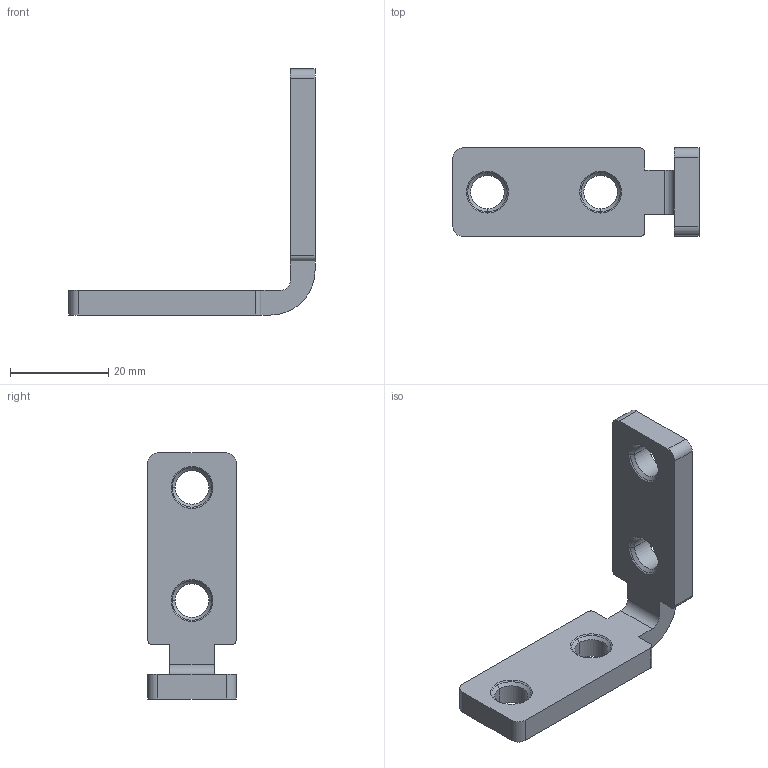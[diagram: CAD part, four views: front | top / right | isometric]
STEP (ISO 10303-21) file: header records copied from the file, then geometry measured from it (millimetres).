
FILE_DESCRIPTION((''),'2;1');
FILE_NAME('GII9010','2002-12-27T',('Lipro doo'),('Lipro d.o.o.'),'PRO/ENGINEER BY PARAMETRIC TECHNOLOGY CORPORATION, 2001150','PRO/ENGINEER BY PARAMETRIC TECHNOLOGY CORPORATION, 2001150','');
FILE_SCHEMA(('CONFIG_CONTROL_DESIGN'));
Length unit declared in the file: millimetre
Products named in the file (1): GII9010
Bounding box: 50 x 18 x 50 mm (x, y, z)
Volume: 6855 mm3; surface area: 4799.6 mm2
Topology: 1 solids, 5 shells, 50 faces, 136 edges, 88 vertices
Faces by surface type: cylinder 26, plane 16, cone 8
Entity records: 1647 total; most frequent: DIRECTION 298, CARTESIAN_POINT 275, ORIENTED_EDGE 256, EDGE_CURVE 136, AXIS2_PLACEMENT_3D 111, VERTEX_POINT 88, VECTOR 76, LINE 76
